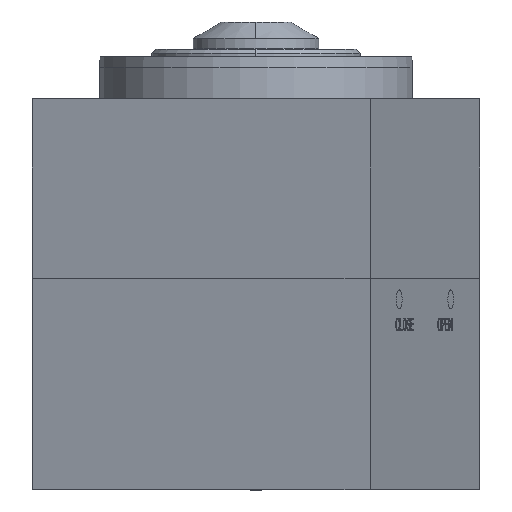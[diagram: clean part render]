
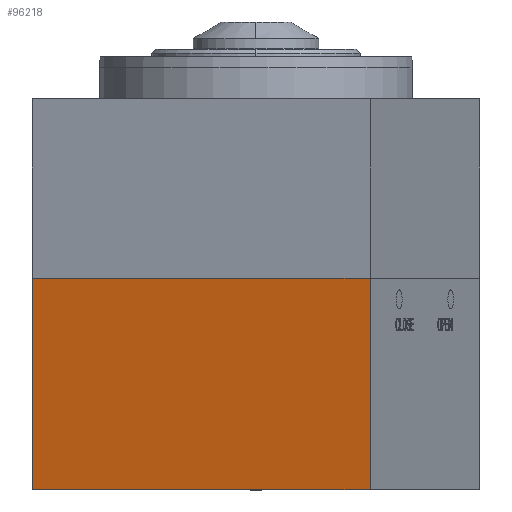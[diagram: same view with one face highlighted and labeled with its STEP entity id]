
A CAD part, left-side view. The second image highlights one B-rep face of the part: STEP entity #96218.
In plain terms, the highlighted planar face has unit normal (-0.951, 0.309, 0) as drawn and (-1, 0, 0) by its records, which use the part's own axes.
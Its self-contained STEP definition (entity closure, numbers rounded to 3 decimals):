
#86480=DIRECTION('',(0.,0.,-1.));
#86481=VECTOR('',#86480,170.);
#86482=CARTESIAN_POINT('',(-85.,0.,85.));
#86483=LINE('',#86482,#86481);
#86855=DIRECTION('',(0.,1.,0.));
#86856=VECTOR('',#86855,101.);
#86857=CARTESIAN_POINT('',(-85.,-101.,85.));
#86858=LINE('',#86857,#86856);
#89098=DIRECTION('',(0.,0.,-1.));
#89099=VECTOR('',#89098,170.);
#89100=CARTESIAN_POINT('',(-85.,-101.,85.));
#89101=LINE('',#89100,#89099);
#89142=DIRECTION('',(0.,1.,0.));
#89143=VECTOR('',#89142,101.);
#89144=CARTESIAN_POINT('',(-85.,-101.,-85.));
#89145=LINE('',#89144,#89143);
#93268=CARTESIAN_POINT('',(-85.,0.,85.));
#93269=CARTESIAN_POINT('',(-85.,0.,-85.));
#93270=VERTEX_POINT('',#93268);
#93271=VERTEX_POINT('',#93269);
#93276=CARTESIAN_POINT('',(-85.,-101.,85.));
#93277=CARTESIAN_POINT('',(-85.,-101.,-85.));
#93278=VERTEX_POINT('',#93276);
#93279=VERTEX_POINT('',#93277);
#96207=CARTESIAN_POINT('',(-85.,0.,-85.));
#96208=DIRECTION('',(-1.,0.,0.));
#96209=DIRECTION('',(0.,0.,1.));
#96210=AXIS2_PLACEMENT_3D('',#96207,#96208,#96209);
#96211=PLANE('',#96210);
#96212=ORIENTED_EDGE('',*,*,#94533,.F.);
#96213=ORIENTED_EDGE('',*,*,#94972,.F.);
#96214=ORIENTED_EDGE('',*,*,#96182,.T.);
#96215=ORIENTED_EDGE('',*,*,#95603,.T.);
#96216=EDGE_LOOP('',(#96212,#96213,#96214,#96215));
#96217=FACE_OUTER_BOUND('',#96216,.F.);
#96218=ADVANCED_FACE('',(#96217),#96211,.T.);
#94533=EDGE_CURVE('',#93270,#93271,#86483,.T.);
#94972=EDGE_CURVE('',#93278,#93270,#86858,.T.);
#95603=EDGE_CURVE('',#93279,#93271,#89145,.T.);
#96182=EDGE_CURVE('',#93278,#93279,#89101,.T.);
